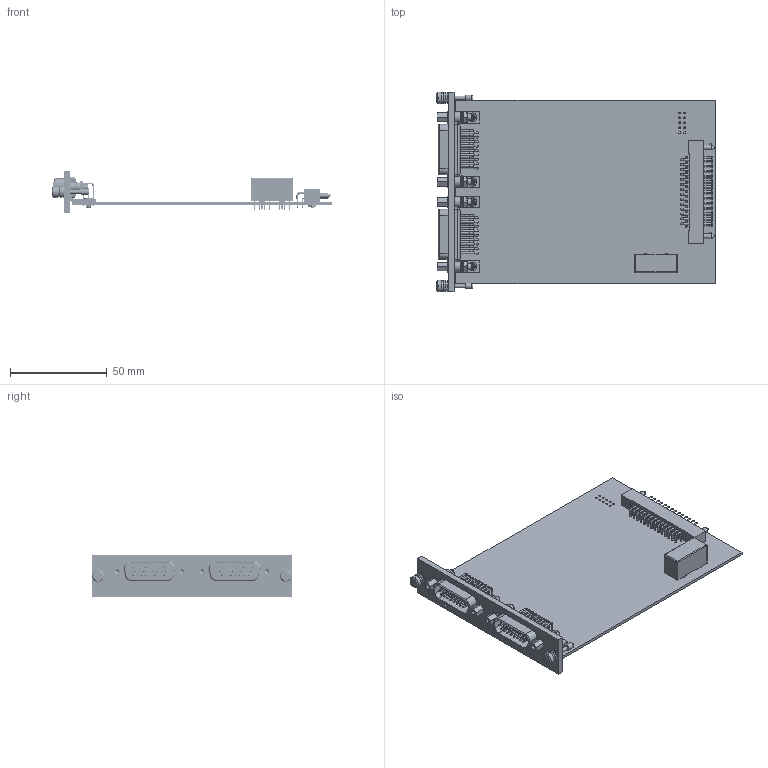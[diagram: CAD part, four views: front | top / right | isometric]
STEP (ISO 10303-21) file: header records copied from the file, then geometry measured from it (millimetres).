
FILE_DESCRIPTION(('STEP AP203'), '1');
FILE_NAME('帎迗.468155.017 沓劌錪 眝3_氈柉009', '', ('UNSPECIFIED'), ('UNSPECIFIED'), 'C3D Converter', 'C3D Toolkit', '');
FILE_SCHEMA(('CONFIG_CONTROL_DESIGN'));
Length unit declared in the file: millimetre
Products named in the file (1): КМНТ.468155.017
Bounding box: 144.01 x 103 x 21.7 mm (x, y, z)
Volume: 34205.7 mm3; surface area: 44540.4 mm2
Topology: 2 solids, 2 shells, 3823 faces, 9918 edges, 6464 vertices
Faces by surface type: plane 1728, cylinder 1636, cone 168, torus 155, sphere 60, revolution 52, bspline 24
Full cylindrical faces by diameter (mm): 0.6 x73, 0.76 x156, 0.8 x29, 1 x91, 1.1 x7, 1.4 x2, 1.6 x2, 2 x2, 2.1 x56, 2.362 x4, 2.459 x2, 2.49 x2, 2.5 x2, 2.7 x2, 3 x6, 3.175 x8, 3.2 x10, 4.5 x8, 5 x4, 5.5 x4, 6 x14
Entity records: 167790 total; most frequent: CARTESIAN_POINT 44129, DIRECTION 19815, ORIENTED_EDGE 18186, EDGE_CURVE 9093, AXIS2_PLACEMENT_3D 7527, VERTEX_POINT 6434, EDGE_LOOP 5227, LINE 4709
